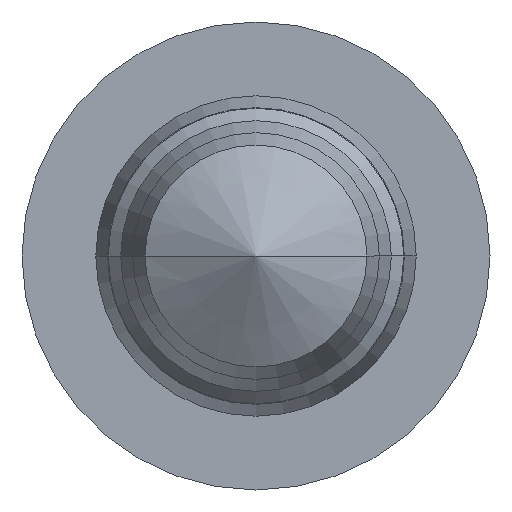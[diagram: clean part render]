
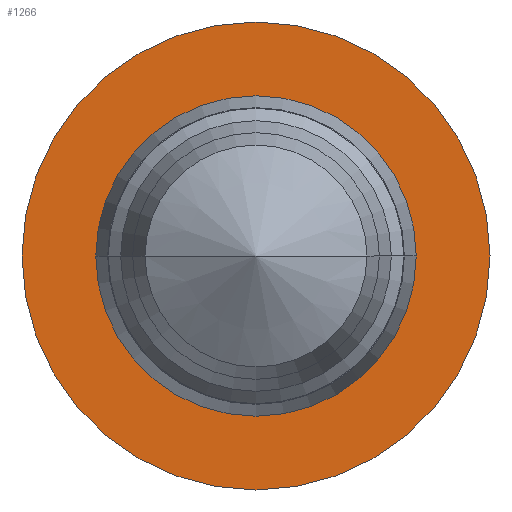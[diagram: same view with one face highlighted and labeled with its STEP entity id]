
A CAD part, front view. The second image highlights one B-rep face of the part: STEP entity #1266.
In plain terms, the highlighted planar face has unit normal (0, -1, 0).
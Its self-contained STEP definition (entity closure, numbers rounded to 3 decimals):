
#204=CARTESIAN_POINT('',(-0.407,-0.031,0.0));
#205=VERTEX_POINT('',#204);
#213=CARTESIAN_POINT('',(0.407,-0.031,0.));
#214=VERTEX_POINT('',#213);
#221=CARTESIAN_POINT('',(0.0,-0.031,0.0));
#222=DIRECTION('',(0.0,-1.0,0.0));
#223=DIRECTION('',(-1.0,0.0,0.0));
#224=AXIS2_PLACEMENT_3D('',#221,#222,#223);
#225=CIRCLE('',#224,0.407);
#226=EDGE_CURVE('',#214,#205,#225,.T.);
#236=CARTESIAN_POINT('',(-0.594,-0.031,0.0));
#237=VERTEX_POINT('',#236);
#246=CARTESIAN_POINT('',(0.594,-0.031,0.));
#247=VERTEX_POINT('',#246);
#248=CARTESIAN_POINT('',(0.0,-0.031,0.0));
#249=DIRECTION('',(0.0,-1.0,0.0));
#250=DIRECTION('',(-1.0,0.0,0.0));
#251=AXIS2_PLACEMENT_3D('',#248,#249,#250);
#252=CIRCLE('',#251,0.594);
#253=EDGE_CURVE('',#247,#237,#252,.T.);
#1237=CARTESIAN_POINT('',(0.0,-0.031,0.0));
#1238=DIRECTION('',(0.0,-1.0,0.0));
#1239=DIRECTION('',(-1.0,0.0,0.0));
#1240=AXIS2_PLACEMENT_3D('',#1237,#1238,#1239);
#1241=CIRCLE('',#1240,0.594);
#1242=EDGE_CURVE('',#237,#247,#1241,.T.);
#1247=CARTESIAN_POINT('',(-0.5,-0.031,0.0));
#1248=DIRECTION('',(0.0,-1.0,0.0));
#1249=DIRECTION('',(0.0,0.0,-1.0));
#1250=AXIS2_PLACEMENT_3D('',#1247,#1248,#1249);
#1251=PLANE('',#1250);
#1252=ORIENTED_EDGE('',*,*,#1242,.T.);
#1253=ORIENTED_EDGE('',*,*,#253,.T.);
#1254=EDGE_LOOP('',(#1252,#1253));
#1255=FACE_OUTER_BOUND('',#1254,.T.);
#1256=CARTESIAN_POINT('',(0.0,-0.031,0.0));
#1257=DIRECTION('',(0.0,-1.0,0.0));
#1258=DIRECTION('',(-1.0,0.0,0.0));
#1259=AXIS2_PLACEMENT_3D('',#1256,#1257,#1258);
#1260=CIRCLE('',#1259,0.407);
#1261=EDGE_CURVE('',#205,#214,#1260,.T.);
#1262=ORIENTED_EDGE('',*,*,#1261,.F.);
#1263=ORIENTED_EDGE('',*,*,#226,.F.);
#1264=EDGE_LOOP('',(#1262,#1263));
#1265=FACE_BOUND('',#1264,.T.);
#1266=ADVANCED_FACE('',(#1255,#1265),#1251,.T.);
